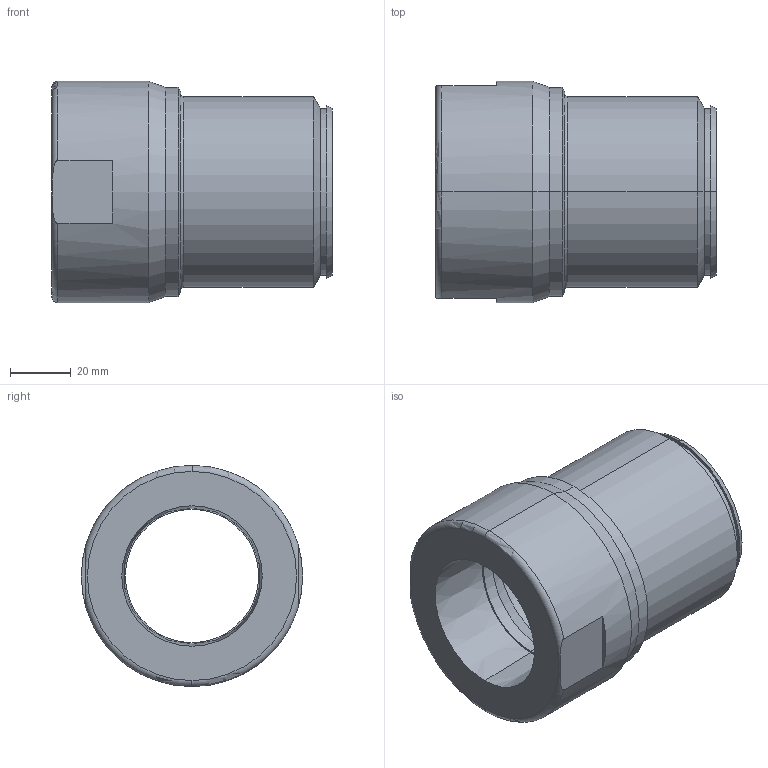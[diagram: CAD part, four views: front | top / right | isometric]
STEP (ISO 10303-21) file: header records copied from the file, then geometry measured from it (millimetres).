
FILE_DESCRIPTION (( 'STEP AP203' ), '1' );
FILE_NAME ('KP_C15-63-54F.step', '2011-08-08T12:04:05', ( '' ), ( '' ), 'SwSTEP 2.0', 'SolidWorks 2011', '' );
FILE_SCHEMA (( 'CONFIG_CONTROL_DESIGN' ));
Length unit declared in the file: millimetre
Products named in the file (1): KP_C15-63-54F
Bounding box: 92.5 x 73 x 73 mm (x, y, z)
Volume: 150071.9 mm3; surface area: 38277.3 mm2
Topology: 1 solids, 2 shells, 44 faces, 92 edges, 54 vertices
Faces by surface type: cone 14, cylinder 14, plane 10, torus 6
Entity records: 1337 total; most frequent: CARTESIAN_POINT 273, DIRECTION 236, ORIENTED_EDGE 184, AXIS2_PLACEMENT_3D 101, EDGE_CURVE 92, CIRCLE 56, VERTEX_POINT 54, EDGE_LOOP 50
